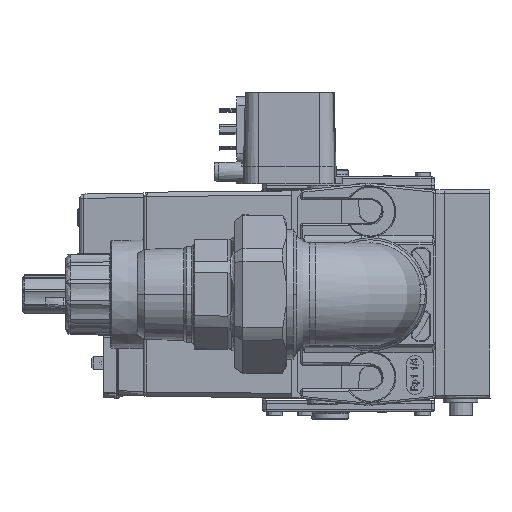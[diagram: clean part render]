
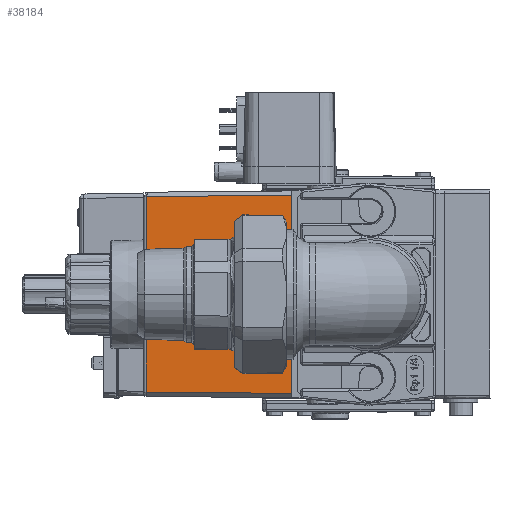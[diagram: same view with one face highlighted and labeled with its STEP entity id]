
A CAD part, left-side view. The second image highlights one B-rep face of the part: STEP entity #38184.
In plain terms, the highlighted planar face has unit normal (-1, 0.009, 0).
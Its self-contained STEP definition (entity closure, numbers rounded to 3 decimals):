
#1308 = LINE ( 'NONE', #45406, #113977 ) ;
#3910 = EDGE_CURVE ( 'NONE', #41799, #41826, #103236, .T. ) ;
#10894 = PLANE ( 'NONE',  #101426 ) ;
#11460 = DIRECTION ( 'NONE',  ( 0.009, 1., -0.009 ) ) ;
#12144 = VECTOR ( 'NONE', #81685, 1000. ) ;
#14965 = DIRECTION ( 'NONE',  ( -1., 0.009, 0. ) ) ;
#16316 = EDGE_CURVE ( 'NONE', #41826, #114887, #76994, .T. ) ;
#23774 = VECTOR ( 'NONE', #41045, 1000. ) ;
#38184 = ADVANCED_FACE ( 'NONE', ( #103793 ), #10894, .T. ) ;
#39457 = CARTESIAN_POINT ( 'NONE',  ( 198., 36., -45.5 ) ) ;
#41045 = DIRECTION ( 'NONE',  ( -0.009, -1., -0.009 ) ) ;
#41799 = VERTEX_POINT ( 'NONE', #39457 ) ;
#41826 = VERTEX_POINT ( 'NONE', #133496 ) ;
#42440 = ORIENTED_EDGE ( 'NONE', *, *, #101926, .T. ) ;
#42656 = CARTESIAN_POINT ( 'NONE',  ( 198.585, 103.009, -44.915 ) ) ;
#45406 = CARTESIAN_POINT ( 'NONE',  ( 198.585, 103.009, 47.5 ) ) ;
#51280 = ORIENTED_EDGE ( 'NONE', *, *, #133128, .T. ) ;
#53909 = VECTOR ( 'NONE', #11460, 1000. ) ;
#55701 = VERTEX_POINT ( 'NONE', #42656 ) ;
#58776 = DIRECTION ( 'NONE',  ( 0., 0., -1. ) ) ;
#62356 = CARTESIAN_POINT ( 'NONE',  ( 198., 36., 45.5 ) ) ;
#63479 = ORIENTED_EDGE ( 'NONE', *, *, #3910, .T. ) ;
#73382 = LINE ( 'NONE', #116524, #23774 ) ;
#76994 = LINE ( 'NONE', #62356, #53909 ) ;
#81685 = DIRECTION ( 'NONE',  ( 0., 0., 1. ) ) ;
#93977 = EDGE_LOOP ( 'NONE', ( #51280, #63479, #100420, #42440 ) ) ;
#98901 = CARTESIAN_POINT ( 'NONE',  ( 198.585, 103.009, 44.915 ) ) ;
#100420 = ORIENTED_EDGE ( 'NONE', *, *, #16316, .T. ) ;
#101426 = AXIS2_PLACEMENT_3D ( 'NONE', #129812, #14965, #109003 ) ;
#101926 = EDGE_CURVE ( 'NONE', #114887, #55701, #1308, .T. ) ;
#103236 = LINE ( 'NONE', #103890, #12144 ) ;
#103793 = FACE_OUTER_BOUND ( 'NONE', #93977, .T. ) ;
#103890 = CARTESIAN_POINT ( 'NONE',  ( 198., 36., 47.5 ) ) ;
#109003 = DIRECTION ( 'NONE',  ( -0.009, -1., 0. ) ) ;
#113977 = VECTOR ( 'NONE', #58776, 1000. ) ;
#114887 = VERTEX_POINT ( 'NONE', #98901 ) ;
#116524 = CARTESIAN_POINT ( 'NONE',  ( 198.585, 103.009, -44.915 ) ) ;
#129812 = CARTESIAN_POINT ( 'NONE',  ( 198., 36., 47.5 ) ) ;
#133128 = EDGE_CURVE ( 'NONE', #55701, #41799, #73382, .T. ) ;
#133496 = CARTESIAN_POINT ( 'NONE',  ( 198., 36., 45.5 ) ) ;
